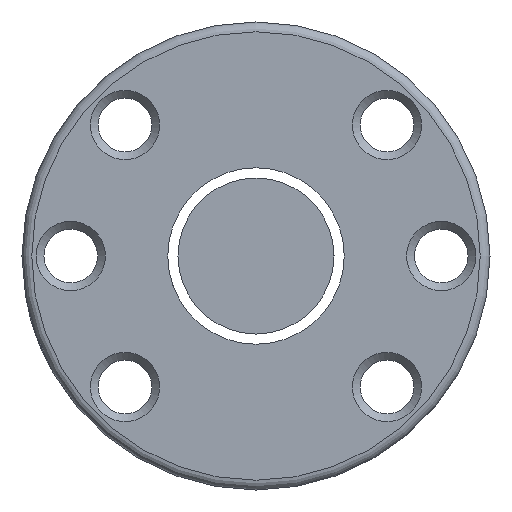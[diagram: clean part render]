
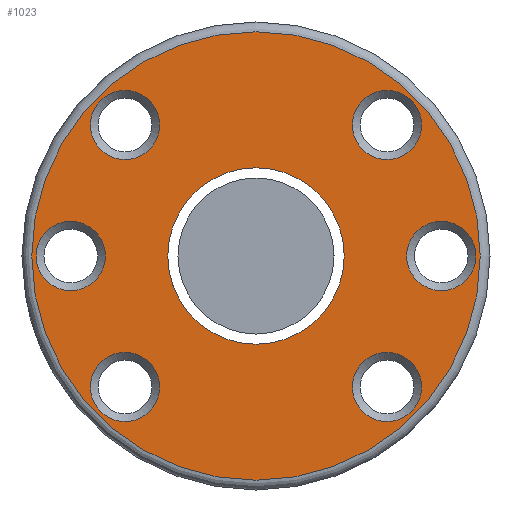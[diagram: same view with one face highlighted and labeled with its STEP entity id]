
A CAD part, left-side view. The second image highlights one B-rep face of the part: STEP entity #1023.
In plain terms, the highlighted planar face has unit normal (-1, 0, 0).
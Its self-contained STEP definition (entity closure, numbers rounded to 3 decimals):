
#5 = CARTESIAN_POINT ( 'NONE',  ( -57., -10.925, 10.925 ) ) ;
#39 = EDGE_CURVE ( 'NONE', #158, #158, #1699, .T. ) ;
#44 = CIRCLE ( 'NONE', #1094, 3.55 ) ;
#101 = CARTESIAN_POINT ( 'NONE',  ( -57., 0., 0. ) ) ;
#133 = EDGE_CURVE ( 'NONE', #2507, #2507, #1239, .T. ) ;
#158 = VERTEX_POINT ( 'NONE', #172 ) ;
#171 = ORIENTED_EDGE ( 'NONE', *, *, #39, .T. ) ;
#172 = CARTESIAN_POINT ( 'NONE',  ( -57., 10.925, -10.925 ) ) ;
#188 = AXIS2_PLACEMENT_3D ( 'NONE', #574, #1990, #1402 ) ;
#211 = CARTESIAN_POINT ( 'NONE',  ( -57., 24., 0. ) ) ;
#235 = ORIENTED_EDGE ( 'NONE', *, *, #2256, .T. ) ;
#248 = EDGE_CURVE ( 'NONE', #1456, #1456, #1934, .T. ) ;
#311 = EDGE_LOOP ( 'NONE', ( #1405 ) ) ;
#414 = FACE_BOUND ( 'NONE', #311, .T. ) ;
#432 = CARTESIAN_POINT ( 'NONE',  ( -57., -15.45, 0. ) ) ;
#455 = CIRCLE ( 'NONE', #2571, 3.55 ) ;
#496 = CIRCLE ( 'NONE', #2028, 3.55 ) ;
#528 = DIRECTION ( 'NONE',  ( 0., -1., 0. ) ) ;
#541 = DIRECTION ( 'NONE',  ( 1., 0., 0. ) ) ;
#574 = CARTESIAN_POINT ( 'NONE',  ( -57., -19., 0. ) ) ;
#580 = EDGE_LOOP ( 'NONE', ( #2190 ) ) ;
#615 = EDGE_LOOP ( 'NONE', ( #235 ) ) ;
#692 = CARTESIAN_POINT ( 'NONE',  ( -57., -13.435, -13.435 ) ) ;
#719 = CARTESIAN_POINT ( 'NONE',  ( -57., 13.435, -13.435 ) ) ;
#754 = FACE_OUTER_BOUND ( 'NONE', #2433, .T. ) ;
#842 = FACE_BOUND ( 'NONE', #580, .T. ) ;
#905 = ORIENTED_EDGE ( 'NONE', *, *, #935, .T. ) ;
#929 = AXIS2_PLACEMENT_3D ( 'NONE', #719, #1551, #2402 ) ;
#935 = EDGE_CURVE ( 'NONE', #1014, #1014, #496, .T. ) ;
#989 = CARTESIAN_POINT ( 'NONE',  ( -57., -10.925, -10.925 ) ) ;
#1014 = VERTEX_POINT ( 'NONE', #1612 ) ;
#1023 = ADVANCED_FACE ( 'NONE', ( #754, #1175, #1400, #1606, #842, #1897, #1462, #414 ), #2110, .T. ) ;
#1025 = DIRECTION ( 'NONE',  ( 0., 0.707, -0.707 ) ) ;
#1035 = DIRECTION ( 'NONE',  ( 1., 0., 0. ) ) ;
#1077 = VERTEX_POINT ( 'NONE', #432 ) ;
#1094 = AXIS2_PLACEMENT_3D ( 'NONE', #1838, #1035, #1025 ) ;
#1099 = AXIS2_PLACEMENT_3D ( 'NONE', #101, #2163, #1937 ) ;
#1112 = DIRECTION ( 'NONE',  ( 1., 0., 0. ) ) ;
#1152 = EDGE_LOOP ( 'NONE', ( #905 ) ) ;
#1175 = FACE_BOUND ( 'NONE', #1827, .T. ) ;
#1226 = ORIENTED_EDGE ( 'NONE', *, *, #133, .T. ) ;
#1239 = CIRCLE ( 'NONE', #1376, 3.55 ) ;
#1243 = CIRCLE ( 'NONE', #188, 3.55 ) ;
#1253 = DIRECTION ( 'NONE',  ( -1., 0., 0. ) ) ;
#1259 = VERTEX_POINT ( 'NONE', #2325 ) ;
#1341 = DIRECTION ( 'NONE',  ( 1., 0., 0. ) ) ;
#1351 = DIRECTION ( 'NONE',  ( 0., 0.707, 0.707 ) ) ;
#1371 = DIRECTION ( 'NONE',  ( 0., -0.707, -0.707 ) ) ;
#1376 = AXIS2_PLACEMENT_3D ( 'NONE', #692, #1112, #1351 ) ;
#1400 = FACE_BOUND ( 'NONE', #1854, .T. ) ;
#1402 = DIRECTION ( 'NONE',  ( 0., 1., 0. ) ) ;
#1405 = ORIENTED_EDGE ( 'NONE', *, *, #248, .T. ) ;
#1456 = VERTEX_POINT ( 'NONE', #1828 ) ;
#1462 = FACE_BOUND ( 'NONE', #1152, .T. ) ;
#1470 = EDGE_CURVE ( 'NONE', #2735, #2735, #455, .T. ) ;
#1518 = CARTESIAN_POINT ( 'NONE',  ( -57., 10.925, 10.925 ) ) ;
#1529 = DIRECTION ( 'NONE',  ( 0., -1., 0. ) ) ;
#1530 = CARTESIAN_POINT ( 'NONE',  ( -57., 13.435, 13.435 ) ) ;
#1551 = DIRECTION ( 'NONE',  ( 1., 0., 0. ) ) ;
#1606 = FACE_BOUND ( 'NONE', #615, .T. ) ;
#1612 = CARTESIAN_POINT ( 'NONE',  ( -57., 15.45, 0. ) ) ;
#1699 = CIRCLE ( 'NONE', #929, 3.55 ) ;
#1712 = AXIS2_PLACEMENT_3D ( 'NONE', #2246, #2005, #528 ) ;
#1827 = EDGE_LOOP ( 'NONE', ( #171 ) ) ;
#1828 = CARTESIAN_POINT ( 'NONE',  ( -57., 9.05, 0. ) ) ;
#1838 = CARTESIAN_POINT ( 'NONE',  ( -57., -13.435, 13.435 ) ) ;
#1854 = EDGE_LOOP ( 'NONE', ( #1226 ) ) ;
#1897 = FACE_BOUND ( 'NONE', #2598, .T. ) ;
#1934 = CIRCLE ( 'NONE', #1099, 9.05 ) ;
#1937 = DIRECTION ( 'NONE',  ( 0., 1., 0. ) ) ;
#1990 = DIRECTION ( 'NONE',  ( 1., 0., 0. ) ) ;
#2005 = DIRECTION ( 'NONE',  ( -1., 0., 0. ) ) ;
#2028 = AXIS2_PLACEMENT_3D ( 'NONE', #2623, #1341, #1529 ) ;
#2073 = ORIENTED_EDGE ( 'NONE', *, *, #2355, .T. ) ;
#2084 = DIRECTION ( 'NONE',  ( 0., -1., 0. ) ) ;
#2104 = VERTEX_POINT ( 'NONE', #5 ) ;
#2110 = PLANE ( 'NONE',  #2217 ) ;
#2163 = DIRECTION ( 'NONE',  ( 1., 0., 0. ) ) ;
#2190 = ORIENTED_EDGE ( 'NONE', *, *, #2502, .T. ) ;
#2217 = AXIS2_PLACEMENT_3D ( 'NONE', #211, #1253, #2084 ) ;
#2246 = CARTESIAN_POINT ( 'NONE',  ( -57., 0., 0. ) ) ;
#2252 = ORIENTED_EDGE ( 'NONE', *, *, #1470, .T. ) ;
#2256 = EDGE_CURVE ( 'NONE', #1077, #1077, #1243, .T. ) ;
#2325 = CARTESIAN_POINT ( 'NONE',  ( -57., -23., 0. ) ) ;
#2336 = CIRCLE ( 'NONE', #1712, 23. ) ;
#2355 = EDGE_CURVE ( 'NONE', #1259, #1259, #2336, .T. ) ;
#2402 = DIRECTION ( 'NONE',  ( 0., -0.707, 0.707 ) ) ;
#2433 = EDGE_LOOP ( 'NONE', ( #2073 ) ) ;
#2502 = EDGE_CURVE ( 'NONE', #2104, #2104, #44, .T. ) ;
#2507 = VERTEX_POINT ( 'NONE', #989 ) ;
#2571 = AXIS2_PLACEMENT_3D ( 'NONE', #1530, #541, #1371 ) ;
#2598 = EDGE_LOOP ( 'NONE', ( #2252 ) ) ;
#2623 = CARTESIAN_POINT ( 'NONE',  ( -57., 19., 0. ) ) ;
#2735 = VERTEX_POINT ( 'NONE', #1518 ) ;
